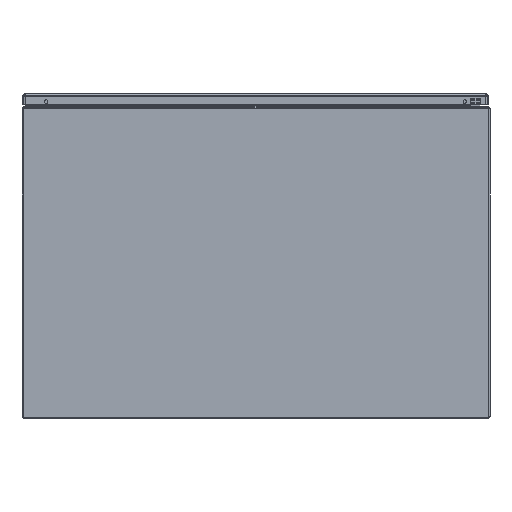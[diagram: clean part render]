
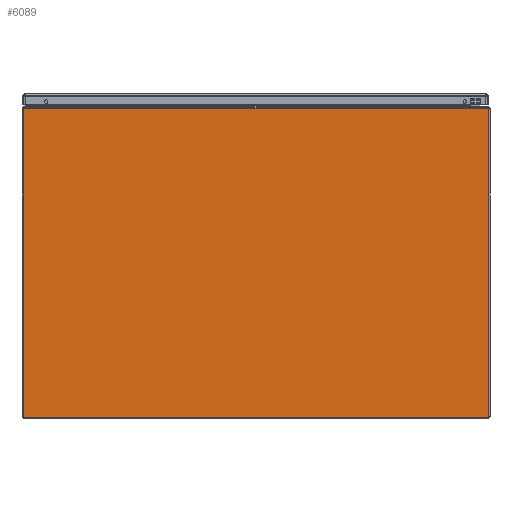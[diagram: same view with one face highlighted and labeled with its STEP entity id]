
A CAD part, front view. The second image highlights one B-rep face of the part: STEP entity #6089.
In plain terms, the highlighted planar face has unit normal (0, -1, 0).
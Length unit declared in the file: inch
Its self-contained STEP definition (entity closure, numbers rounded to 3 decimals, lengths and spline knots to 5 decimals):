
#6089 = ADVANCED_FACE ( 'NONE', ( #27657 ), #25916, .T. ) ;
#25910 = DIRECTION ( 'NONE',  ( 0., 0., -1. ) ) ;
#25911 = DIRECTION ( 'NONE',  ( 0., -1., 0. ) ) ;
#25916 = PLANE ( 'NONE',  #35133 ) ;
#25925 = CARTESIAN_POINT ( 'NONE',  ( 15., 0., 0.08 ) ) ;
#27311 = EDGE_LOOP ( 'NONE', ( #34803, #34802, #34801, #34800 ) ) ;
#27657 = FACE_OUTER_BOUND ( 'NONE', #27311, .T. ) ;
#33713 = CARTESIAN_POINT ( 'NONE',  ( -14.921, 0., 19.833 ) ) ;
#33734 = CARTESIAN_POINT ( 'NONE',  ( 14.921, 0., 19.833 ) ) ;
#33826 = CARTESIAN_POINT ( 'NONE',  ( 14.921, 0., 0.08 ) ) ;
#34443 = VERTEX_POINT ( 'NONE', #33713 ) ;
#34464 = VERTEX_POINT ( 'NONE', #33734 ) ;
#34556 = VERTEX_POINT ( 'NONE', #33826 ) ;
#34649 = VERTEX_POINT ( 'NONE', #37571 ) ;
#34800 = ORIENTED_EDGE ( 'NONE', *, *, #35633, .T. ) ;
#34801 = ORIENTED_EDGE ( 'NONE', *, *, #35629, .T. ) ;
#34802 = ORIENTED_EDGE ( 'NONE', *, *, #35631, .F. ) ;
#34803 = ORIENTED_EDGE ( 'NONE', *, *, #35632, .F. ) ;
#35133 = AXIS2_PLACEMENT_3D ( 'NONE', #25925, #25911, #25910 ) ;
#35629 = EDGE_CURVE ( 'NONE', #34464, #34443, #41000, .T. ) ;
#35631 = EDGE_CURVE ( 'NONE', #34464, #34556, #41002, .T. ) ;
#35632 = EDGE_CURVE ( 'NONE', #34556, #34649, #41001, .T. ) ;
#35633 = EDGE_CURVE ( 'NONE', #34443, #34649, #40999, .T. ) ;
#37571 = CARTESIAN_POINT ( 'NONE',  ( -14.921, 0., 0.08 ) ) ;
#39282 = CARTESIAN_POINT ( 'NONE',  ( 15., 0., 19.833 ) ) ;
#39285 = DIRECTION ( 'NONE',  ( -1., 0., 0. ) ) ;
#39288 = CARTESIAN_POINT ( 'NONE',  ( 15., 0., 0.08 ) ) ;
#39297 = CARTESIAN_POINT ( 'NONE',  ( 14.921, 0., 0.08 ) ) ;
#39299 = DIRECTION ( 'NONE',  ( 0., 0., -1. ) ) ;
#39301 = CARTESIAN_POINT ( 'NONE',  ( -14.921, 0., 20.569 ) ) ;
#39303 = DIRECTION ( 'NONE',  ( -1., 0., 0. ) ) ;
#39307 = DIRECTION ( 'NONE',  ( 0., 0., -1. ) ) ;
#40993 = VECTOR ( 'NONE', #39299, 39.37008 ) ;
#40995 = VECTOR ( 'NONE', #39285, 39.37008 ) ;
#40999 = LINE ( 'NONE', #39301, #41006 ) ;
#41000 = LINE ( 'NONE', #39282, #40995 ) ;
#41001 = LINE ( 'NONE', #39288, #41004 ) ;
#41002 = LINE ( 'NONE', #39297, #40993 ) ;
#41004 = VECTOR ( 'NONE', #39303, 39.37008 ) ;
#41006 = VECTOR ( 'NONE', #39307, 39.37008 ) ;
